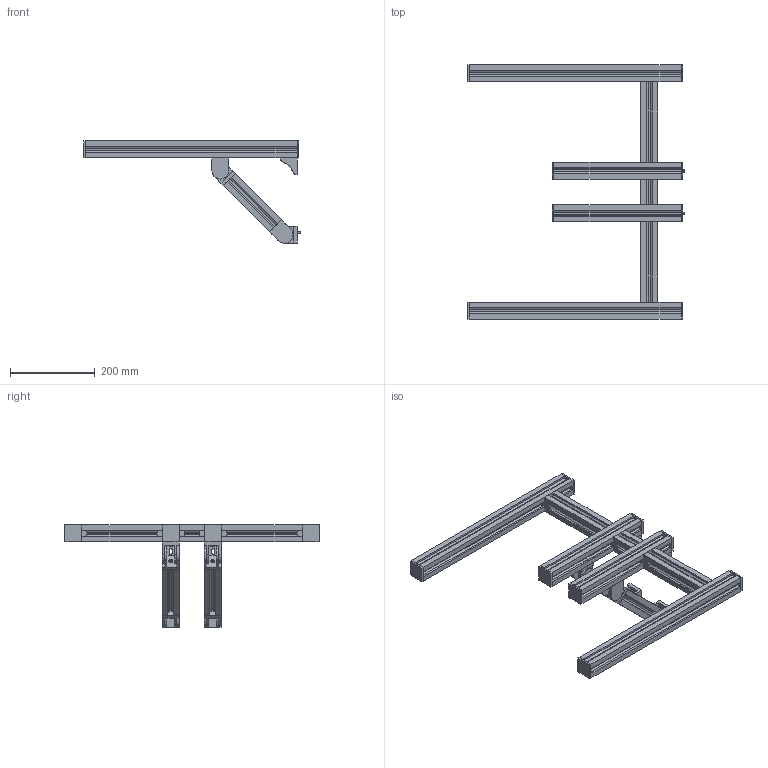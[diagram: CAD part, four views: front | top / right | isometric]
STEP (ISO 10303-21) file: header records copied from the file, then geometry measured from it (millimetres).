
FILE_DESCRIPTION (( 'STEP AP214' ), '1' );
FILE_NAME ('BOWL SUPPORT.STEP', '2021-03-08T22:56:01', ( '' ), ( '' ), 'SwSTEP 2.0', 'SolidWorks 2021', '' );
FILE_SCHEMA (( 'AUTOMOTIVE_DESIGN' ));
Length unit declared in the file: inch
Products named in the file (1): BOWL SUPPORT
Bounding box: 512 x 600 x 241 mm (x, y, z)
Volume: 1983009.3 mm3; surface area: 963491.7 mm2
Topology: 44 solids, 44 shells, 1224 faces, 3252 edges, 2116 vertices
Faces by surface type: plane 1036, cylinder 112, cone 44, torus 16, sphere 16
Entity records: 53789 total; most frequent: CARTESIAN_POINT 6577, ORIENTED_EDGE 6472, DIRECTION 6066, EDGE_CURVE 3236, LINE 2856, VECTOR 2856, VERTEX_POINT 2116, AXIS2_PLACEMENT_3D 1605
